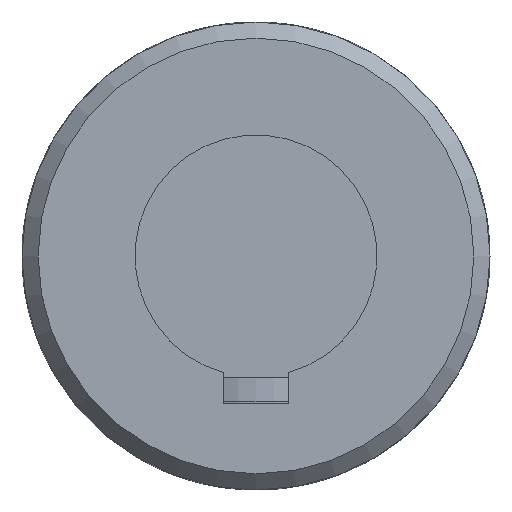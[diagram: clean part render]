
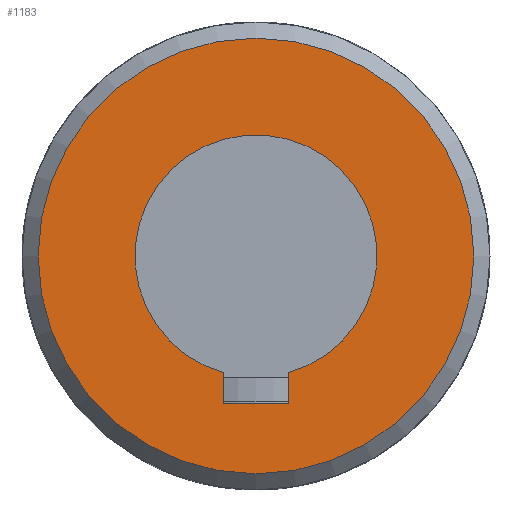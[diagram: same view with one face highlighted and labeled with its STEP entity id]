
A CAD part, front view. The second image highlights one B-rep face of the part: STEP entity #1183.
In plain terms, the highlighted planar face has unit normal (0, -1, 0).
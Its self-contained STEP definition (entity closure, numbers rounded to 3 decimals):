
#133=LINE('',#2131,#178);
#137=LINE('',#2154,#182);
#139=LINE('',#2162,#184);
#178=VECTOR('',#1532,3.843);
#182=VECTOR('',#1544,8.);
#184=VECTOR('',#1548,3.843);
#223=PLANE('',#1304);
#264=FACE_BOUND('',#426,.T.);
#322=FACE_OUTER_BOUND('',#425,.T.);
#425=EDGE_LOOP('',(#1009));
#426=EDGE_LOOP('',(#1010,#1011,#1012,#1013));
#489=CIRCLE('',#1291,15.);
#495=CIRCLE('',#1302,27.);
#579=VERTEX_POINT('',#2128);
#580=VERTEX_POINT('',#2130);
#583=VERTEX_POINT('',#2140);
#585=VERTEX_POINT('',#2152);
#594=VERTEX_POINT('',#2241);
#718=EDGE_CURVE('',#580,#579,#133,.T.);
#722=EDGE_CURVE('',#583,#580,#489,.T.);
#726=EDGE_CURVE('',#579,#585,#137,.T.);
#729=EDGE_CURVE('',#585,#583,#139,.T.);
#739=EDGE_CURVE('',#594,#594,#495,.T.);
#1009=ORIENTED_EDGE('',*,*,#739,.F.);
#1010=ORIENTED_EDGE('',*,*,#718,.T.);
#1011=ORIENTED_EDGE('',*,*,#726,.T.);
#1012=ORIENTED_EDGE('',*,*,#729,.T.);
#1013=ORIENTED_EDGE('',*,*,#722,.T.);
#1183=ADVANCED_FACE('',(#322,#264),#223,.F.);
#1291=AXIS2_PLACEMENT_3D('',#2141,#1538,#1539);
#1302=AXIS2_PLACEMENT_3D('',#2242,#1565,#1566);
#1304=AXIS2_PLACEMENT_3D('',#2450,#1573,#1574);
#1532=DIRECTION('',(0.,0.,-1.));
#1538=DIRECTION('center_axis',(0.,1.,0.));
#1539=DIRECTION('ref_axis',(-0.267,0.,0.964));
#1544=DIRECTION('',(-1.,0.,0.));
#1548=DIRECTION('',(0.,0.,1.));
#1565=DIRECTION('center_axis',(0.,1.,0.));
#1566=DIRECTION('ref_axis',(1.,0.,0.));
#1573=DIRECTION('center_axis',(0.,1.,0.));
#1574=DIRECTION('ref_axis',(0.,0.,1.));
#2128=CARTESIAN_POINT('',(4.,-75.5,-18.3));
#2130=CARTESIAN_POINT('',(4.,-75.5,-14.457));
#2131=CARTESIAN_POINT('',(4.,-75.5,-7.228));
#2140=CARTESIAN_POINT('',(-4.,-75.5,-14.457));
#2141=CARTESIAN_POINT('Origin',(0.,-75.5,0.));
#2152=CARTESIAN_POINT('',(-4.,-75.5,-18.3));
#2154=CARTESIAN_POINT('',(2.,-75.5,-18.3));
#2162=CARTESIAN_POINT('',(-4.,-75.5,-9.15));
#2241=CARTESIAN_POINT('',(-27.,-75.5,0.));
#2242=CARTESIAN_POINT('Origin',(0.,-75.5,0.));
#2450=CARTESIAN_POINT('Origin',(0.,-75.5,0.));
